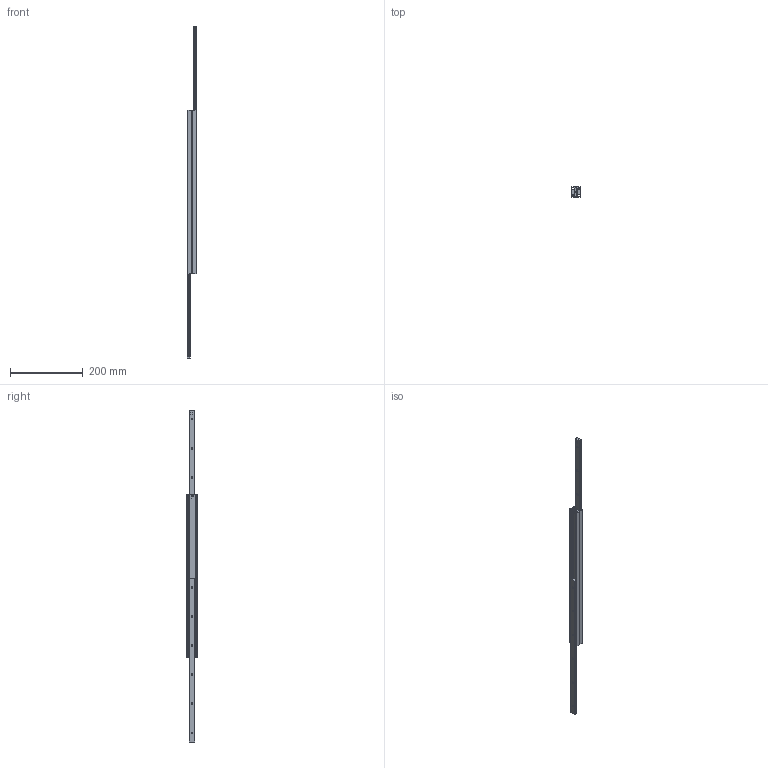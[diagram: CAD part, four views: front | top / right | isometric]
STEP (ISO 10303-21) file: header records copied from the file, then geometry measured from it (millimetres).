
FILE_DESCRIPTION( ( 'STEP AP214' ), '1' );
FILE_NAME( 'p:/temp/worker_84/temp/exporttempdir_3784_364_Rqafx/format_0/DEF28-450464.stp', '2020-03-20T19:44:42', ( 'License CC BY-ND 4.0' ), ( 'CADENAS' ), ' ', 'PARTsolutions', ' ' );
FILE_SCHEMA( ( 'AUTOMOTIVE_DESIGN { 1 0 10303 214 1 1 1 1 }' ) );
Length unit declared in the file: millimetre
Products named in the file (4): DEF28-450464; _282145046412-gf; _28214504641-ei; _282145046411-gf
Assembly tree (4 placements, depth 2):
  DEF28-450464
    _282145046412-gf
    _28214504641-ei  x2
    _282145046411-gf
Bounding box: 26 x 28 x 914 mm (x, y, z)
Volume: 218330.5 mm3; surface area: 130760.1 mm2
Topology: 4 solids, 4 shells, 186 faces, 472 edges, 306 vertices
Faces by surface type: plane 102, cylinder 56, cone 28
Full cylindrical faces by diameter (mm): 4.134 x12, 5 x2
Entity records: 5192 total; most frequent: DIRECTION 712, CARTESIAN_POINT 678, ORIENTED_EDGE 620, EDGE_CURVE 310, AXIS2_PLACEMENT_3D 258, VERTEX_POINT 224, EDGE_LOOP 210, LINE 196
